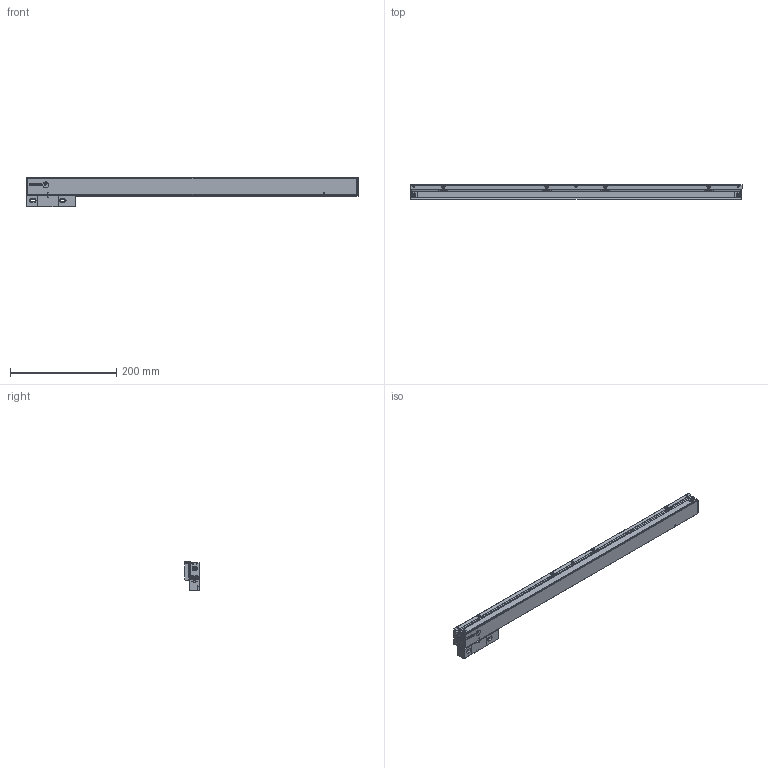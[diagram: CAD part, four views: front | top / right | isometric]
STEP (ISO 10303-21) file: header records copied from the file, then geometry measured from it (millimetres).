
FILE_DESCRIPTION(('Creo Elements/Direct Modeling STEP Export'),'2;1');
FILE_NAME('Regla SV2-520.stp','2015-07-07T12:13:13',(''),(''),'Creo Elements/Direct Modeling STEP processor for AP214 (Solid Model)','Creo Elements/Direct Modeling 18.1G 27-Feb-2015 (C) Parametric Technology GmbH','');
FILE_SCHEMA(('AUTOMOTIVE_DESIGN { 1 0 10303 214 1 1 1 1 }'));
Length unit declared in the file: millimetre
Products named in the file (4): CABEZA_RANURADA_REGLA_SV2; REGLA_SV2-520; SOPORTE_SV2; REGLA_SV2-520mm
Assembly tree (3 placements, depth 2):
  REGLA_SV2-520mm
    SOPORTE_SV2
    REGLA_SV2-520
    CABEZA_RANURADA_REGLA_SV2
Bounding box: 625 x 28 x 56.2 mm (x, y, z)
Volume: 353747.6 mm3; surface area: 185620.6 mm2
Topology: 2 solids, 21 shells, 1809 faces, 4973 edges, 3227 vertices
Faces by surface type: plane 793, cylinder 698, cone 182, bspline 98, torus 26, sphere 12
Entity records: 74022 total; most frequent: CARTESIAN_POINT 22134, ORIENTED_EDGE 9902, DIRECTION 8289, EDGE_CURVE 4943, VERTEX_POINT 3227, AXIS2_PLACEMENT_3D 2826, VECTOR 2637, LINE 2637
